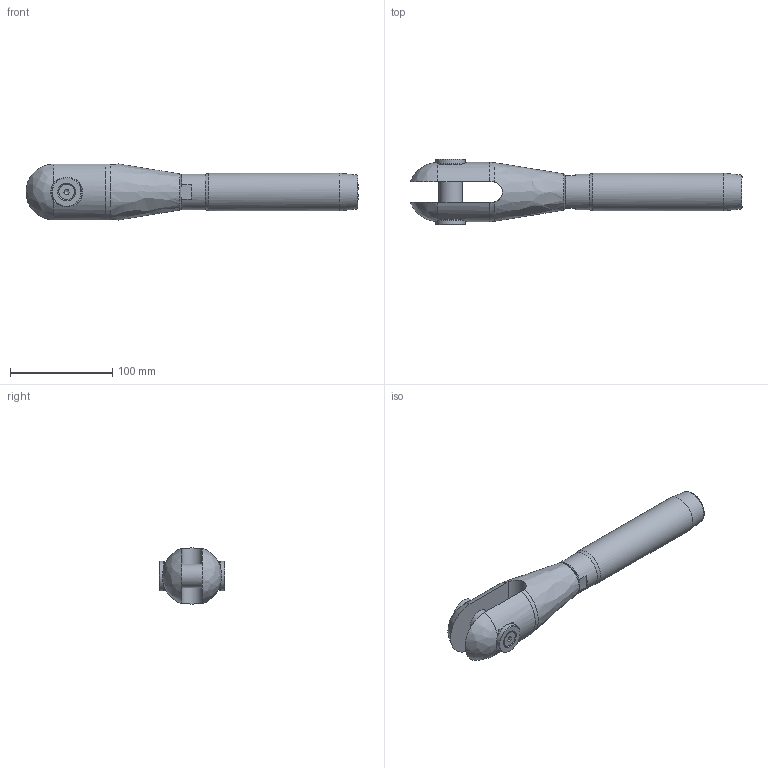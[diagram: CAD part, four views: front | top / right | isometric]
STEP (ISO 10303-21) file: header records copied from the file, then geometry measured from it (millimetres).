
FILE_DESCRIPTION(/* description */ (''),/* implementation_level */ '2;1');
FILE_NAME(/* name */ 'MAC-R 16_1,4418',/* time_stamp */ '2023-05-23T17:52:08+02:00',/* author */ (''),/* organization */ (''),/* preprocessor_version */ 'ST-DEVELOPER v16.5',/* originating_system */ 'Rhino 7.22',/* authorisation */ '');
FILE_SCHEMA (('CONFIG_CONTROL_DESIGN'));
Length unit declared in the file: millimetre
Products named in the file (1): Document
Bounding box: 324.2 x 64.34 x 54.76 mm (x, y, z)
Volume: 411856.3 mm3; surface area: 72564.4 mm2
Topology: 7 solids, 7 shells, 88 faces, 246 edges, 171 vertices
Faces by surface type: plane 36, bspline 28, cylinder 24
Full cylindrical faces by diameter (mm): 6.647 x2, 8 x2, 8.5 x2, 15.24 x2, 23 x1, 23.752 x1, 25 x2, 27 x1, 29 x2, 35 x1, 36.8 x1
Entity records: 3494 total; most frequent: CARTESIAN_POINT 1931, ORIENTED_EDGE 482, EDGE_CURVE 241, VERTEX_POINT 171, EDGE_LOOP 100, B_SPLINE_CURVE_WITH_KNOTS 97, ADVANCED_FACE 88, FACE_OUTER_BOUND 88
